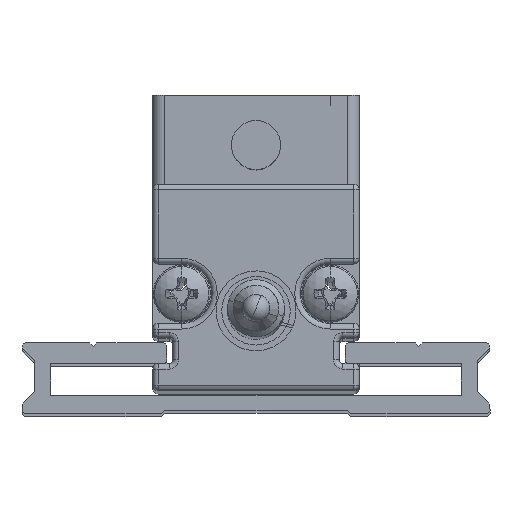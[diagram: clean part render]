
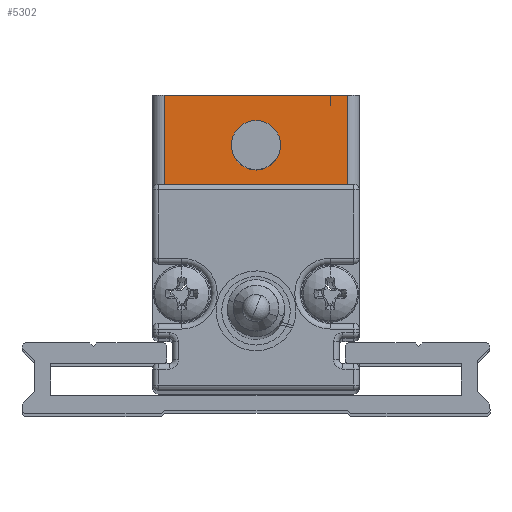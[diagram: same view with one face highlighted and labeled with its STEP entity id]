
A CAD part, top view. The second image highlights one B-rep face of the part: STEP entity #5302.
In plain terms, the highlighted planar face has unit normal (0, 0, 1).
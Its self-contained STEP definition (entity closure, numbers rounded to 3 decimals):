
#190 = CARTESIAN_POINT ( 'NONE',  ( -13.657, 18.515, 71.9 ) ) ;
#406 = FACE_BOUND ( 'NONE', #18958, .T. ) ;
#441 = CARTESIAN_POINT ( 'NONE',  ( -4.607, 14.115, 71.9 ) ) ;
#644 = EDGE_CURVE ( 'NONE', #3357, #20538, #12518, .T. ) ;
#809 = ORIENTED_EDGE ( 'NONE', *, *, #22605, .T. ) ;
#1377 = DIRECTION ( 'NONE',  ( 0., -1., 0. ) ) ;
#1681 = CARTESIAN_POINT ( 'NONE',  ( -13.657, 10.515, 71.9 ) ) ;
#1865 = EDGE_LOOP ( 'NONE', ( #10906, #9416, #2368, #809 ) ) ;
#1882 = CARTESIAN_POINT ( 'NONE',  ( -4.607, 16.265, 71.9 ) ) ;
#2368 = ORIENTED_EDGE ( 'NONE', *, *, #7781, .F. ) ;
#2826 = LINE ( 'NONE', #8746, #3689 ) ;
#3070 = CARTESIAN_POINT ( 'NONE',  ( -12.657, 10.515, 71.9 ) ) ;
#3357 = VERTEX_POINT ( 'NONE', #21073 ) ;
#3459 = DIRECTION ( 'NONE',  ( 0., 1., 0. ) ) ;
#3689 = VECTOR ( 'NONE', #21448, 1000. ) ;
#3893 = VERTEX_POINT ( 'NONE', #10598 ) ;
#4436 = VERTEX_POINT ( 'NONE', #21768 ) ;
#4475 = VERTEX_POINT ( 'NONE', #12540 ) ;
#5237 = LINE ( 'NONE', #18053, #15992 ) ;
#5302 = ADVANCED_FACE ( 'NONE', ( #406, #14306 ), #19351, .F. ) ;
#5804 = DIRECTION ( 'NONE',  ( 0., -1., 0. ) ) ;
#7781 = EDGE_CURVE ( 'NONE', #4475, #3893, #5237, .T. ) ;
#8746 = CARTESIAN_POINT ( 'NONE',  ( 3.443, 10.515, 71.9 ) ) ;
#9416 = ORIENTED_EDGE ( 'NONE', *, *, #21402, .T. ) ;
#10598 = CARTESIAN_POINT ( 'NONE',  ( -12.657, 10.515, 71.9 ) ) ;
#10906 = ORIENTED_EDGE ( 'NONE', *, *, #23340, .T. ) ;
#12518 = CIRCLE ( 'NONE', #18909, 2.15 ) ;
#12540 = CARTESIAN_POINT ( 'NONE',  ( 3.443, 10.515, 71.9 ) ) ;
#13857 = VECTOR ( 'NONE', #1377, 1000. ) ;
#14167 = EDGE_CURVE ( 'NONE', #20538, #3357, #21334, .T. ) ;
#14306 = FACE_OUTER_BOUND ( 'NONE', #1865, .T. ) ;
#15992 = VECTOR ( 'NONE', #20261, 1000. ) ;
#16974 = VECTOR ( 'NONE', #23479, 1000. ) ;
#17322 = CARTESIAN_POINT ( 'NONE',  ( 3.443, 18.515, 71.9 ) ) ;
#17745 = DIRECTION ( 'NONE',  ( 0., -1., 0. ) ) ;
#18053 = CARTESIAN_POINT ( 'NONE',  ( -13.657, 10.515, 71.9 ) ) ;
#18679 = LINE ( 'NONE', #3070, #13857 ) ;
#18685 = DIRECTION ( 'NONE',  ( 0., 0., 1. ) ) ;
#18909 = AXIS2_PLACEMENT_3D ( 'NONE', #21234, #23140, #17745 ) ;
#18958 = EDGE_LOOP ( 'NONE', ( #21438, #23096 ) ) ;
#19351 = PLANE ( 'NONE',  #20855 ) ;
#19727 = DIRECTION ( 'NONE',  ( 0., 0., -1. ) ) ;
#20117 = VERTEX_POINT ( 'NONE', #17322 ) ;
#20261 = DIRECTION ( 'NONE',  ( -1., 0., 0. ) ) ;
#20538 = VERTEX_POINT ( 'NONE', #1882 ) ;
#20855 = AXIS2_PLACEMENT_3D ( 'NONE', #1681, #19727, #3459 ) ;
#21073 = CARTESIAN_POINT ( 'NONE',  ( -4.607, 11.965, 71.9 ) ) ;
#21234 = CARTESIAN_POINT ( 'NONE',  ( -4.607, 14.115, 71.9 ) ) ;
#21277 = AXIS2_PLACEMENT_3D ( 'NONE', #441, #18685, #5804 ) ;
#21334 = CIRCLE ( 'NONE', #21277, 2.15 ) ;
#21402 = EDGE_CURVE ( 'NONE', #4436, #3893, #18679, .T. ) ;
#21438 = ORIENTED_EDGE ( 'NONE', *, *, #644, .F. ) ;
#21448 = DIRECTION ( 'NONE',  ( 0., 1., 0. ) ) ;
#21768 = CARTESIAN_POINT ( 'NONE',  ( -12.657, 18.515, 71.9 ) ) ;
#22080 = LINE ( 'NONE', #190, #16974 ) ;
#22605 = EDGE_CURVE ( 'NONE', #4475, #20117, #2826, .T. ) ;
#23096 = ORIENTED_EDGE ( 'NONE', *, *, #14167, .F. ) ;
#23140 = DIRECTION ( 'NONE',  ( 0., 0., 1. ) ) ;
#23340 = EDGE_CURVE ( 'NONE', #20117, #4436, #22080, .T. ) ;
#23479 = DIRECTION ( 'NONE',  ( -1., 0., 0. ) ) ;
